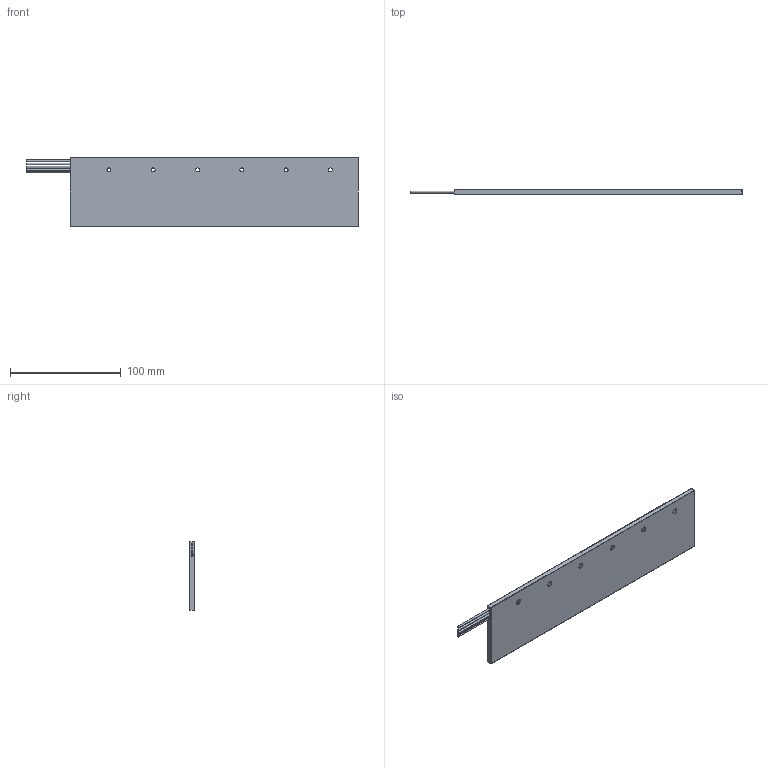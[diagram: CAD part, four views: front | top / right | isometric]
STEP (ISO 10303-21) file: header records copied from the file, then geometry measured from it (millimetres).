
FILE_DESCRIPTION( ( 'Unknown' ), '1' );
FILE_NAME( 'G:/_archief/Cad/_cadsoli/Produkten/U M vacuum/UM Coilunit/Iron Less_UMV_12_CoilUnit_Customized_CAD_140224.stp', 'Unknown', ( 'Unknown' ), ( 'Unknown' ), 'PSStep 16.0.42', 'Unknown', ' ' );
FILE_SCHEMA( ( 'AUTOMOTIVE_DESIGN { 1 0 10303 214 1 1 1 1 }' ) );
Length unit declared in the file: millimetre
Products named in the file (13): 4022 363 05702; Strip top UM12 Vacuum; Strip side UM12 Vacuum; Sheet UM12; Assem1; Casting UM12 Vacuum; Kabels VAC
Assembly tree (14 placements, depth 3):
  Assem1
    Casting UM12 Vacuum
    Kabels VAC
    Kabels VAC
    Kabels VAC
    Kabels VAC
    Kabels VAC
    Kabels VAC
    Kabels VAC
    4022 363 05702
      Strip top UM12 Vacuum  x2
      Strip side UM12 Vacuum
      Sheet UM12  x2
Bounding box: 299.9 x 4.5 x 61.95 mm (x, y, z)
Volume: 72270.4 mm3; surface area: 105085 mm2
Topology: 13 solids, 13 shells, 79 faces, 159 edges, 106 vertices
Faces by surface type: plane 50, cylinder 29
Full cylindrical faces by diameter (mm): 0.8 x4, 1.6 x3, 2 x4, 3.6 x12, 5 x6
Entity records: 2232 total; most frequent: DIRECTION 294, CARTESIAN_POINT 249, ORIENTED_EDGE 188, AXIS2_PLACEMENT_3D 123, EDGE_LOOP 116, EDGE_CURVE 94, FACE_OUTER_BOUND 84, VERTEX_POINT 78
